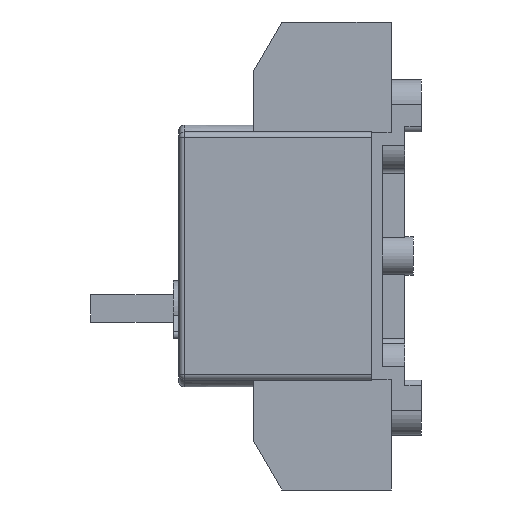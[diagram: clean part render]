
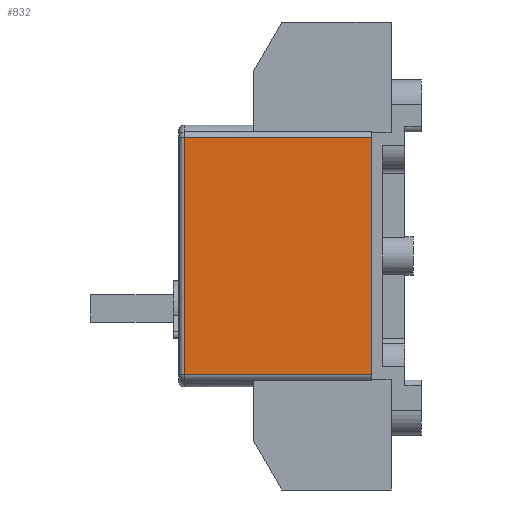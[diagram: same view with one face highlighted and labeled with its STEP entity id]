
A CAD part, left-side view. The second image highlights one B-rep face of the part: STEP entity #832.
In plain terms, the highlighted planar face has unit normal (-1, 0, 0).
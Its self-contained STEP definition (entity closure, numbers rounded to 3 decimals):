
#832=ADVANCED_FACE('',(#1229),#1017,.F.);
#1017=PLANE('',#6063);
#1229=FACE_OUTER_BOUND('',#1593,.T.);
#1593=EDGE_LOOP('',(#2992,#2993,#2994,#2995));
#2992=ORIENTED_EDGE('',*,*,#4461,.F.);
#2993=ORIENTED_EDGE('',*,*,#4448,.T.);
#2994=ORIENTED_EDGE('',*,*,#4462,.T.);
#2995=ORIENTED_EDGE('',*,*,#3909,.T.);
#3342=VERTEX_POINT('',#8109);
#3343=VERTEX_POINT('',#8111);
#3688=VERTEX_POINT('',#9220);
#3692=VERTEX_POINT('',#9236);
#3909=EDGE_CURVE('',#3343,#3342,#4619,.T.);
#4448=EDGE_CURVE('',#3688,#3692,#4994,.T.);
#4461=EDGE_CURVE('',#3688,#3342,#5001,.T.);
#4462=EDGE_CURVE('',#3692,#3343,#5002,.T.);
#4619=LINE('',#8110,#5159);
#4994=LINE('',#9237,#5534);
#5001=LINE('',#9274,#5541);
#5002=LINE('',#9276,#5542);
#5159=VECTOR('',#6492,1.);
#5534=VECTOR('',#7591,1.);
#5541=VECTOR('',#7616,1.);
#5542=VECTOR('',#7619,1.);
#6063=AXIS2_PLACEMENT_3D('',#9277,#7620,#7621);
#6492=DIRECTION('',(0.,0.,1.));
#7591=DIRECTION('',(0.,0.,-1.));
#7616=DIRECTION('',(0.,-1.,0.));
#7619=DIRECTION('',(0.,-1.,0.));
#7620=DIRECTION('',(1.,0.,0.));
#7621=DIRECTION('',(0.,0.,-1.));
#8109=CARTESIAN_POINT('',(-41.,0.,43.));
#8110=CARTESIAN_POINT('',(-41.,0.,-43.));
#8111=CARTESIAN_POINT('',(-41.,0.,-43.));
#9220=CARTESIAN_POINT('',(-41.,68.,43.));
#9236=CARTESIAN_POINT('',(-41.,68.,-43.));
#9237=CARTESIAN_POINT('',(-41.,68.,-43.));
#9274=CARTESIAN_POINT('',(-41.,35.,43.));
#9276=CARTESIAN_POINT('',(-41.,35.,-43.));
#9277=CARTESIAN_POINT('',(-41.,35.,-43.));
